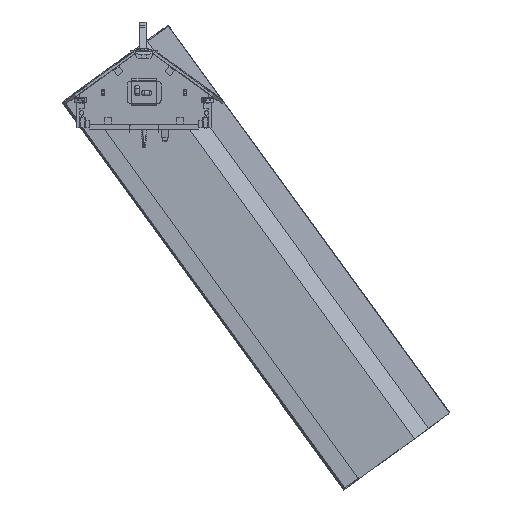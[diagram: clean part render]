
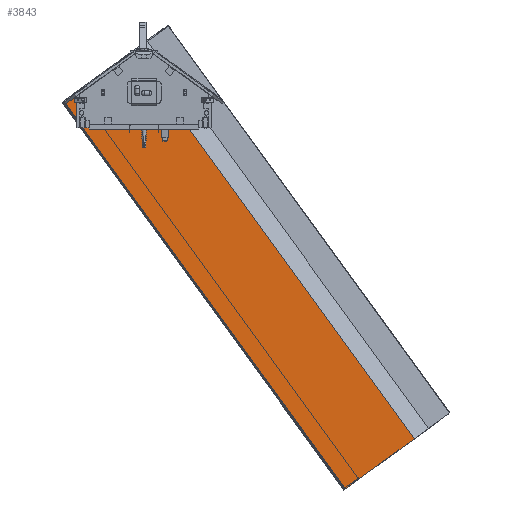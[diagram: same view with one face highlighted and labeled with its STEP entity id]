
A CAD part, left-side view. The second image highlights one B-rep face of the part: STEP entity #3843.
In plain terms, the highlighted planar face has unit normal (-1, 0, 0).
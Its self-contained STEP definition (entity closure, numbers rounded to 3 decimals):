
#3470=CARTESIAN_POINT('Vertex',(2945.11,-2792.848,-3529.747)) ;
#3473=CARTESIAN_POINT('Line Origine',(2945.11,-2436.88,-3788.373)) ;
#3477=CARTESIAN_POINT('Vertex',(2945.11,-2080.913,-4046.998)) ;
#3739=CARTESIAN_POINT('Axis2P3D Location',(2945.11,0.,0.)) ;
#3744=CARTESIAN_POINT('Line Origine',(2945.11,210.455,315.219)) ;
#3748=CARTESIAN_POINT('Vertex',(2945.11,143.815,315.219)) ;
#3750=CARTESIAN_POINT('Vertex',(2945.11,277.096,315.219)) ;
#3753=CARTESIAN_POINT('Line Origine',(2945.11,312.124,289.769)) ;
#3757=CARTESIAN_POINT('Vertex',(2945.11,347.152,264.32)) ;
#3760=CARTESIAN_POINT('Line Origine',(2945.11,355.969,276.455)) ;
#3764=CARTESIAN_POINT('Vertex',(2945.11,364.785,288.59)) ;
#3767=CARTESIAN_POINT('Line Origine',(2945.11,595.268,121.135)) ;
#3771=CARTESIAN_POINT('Vertex',(2945.11,825.75,-46.32)) ;
#3774=CARTESIAN_POINT('Line Origine',(2945.11,-627.581,-2046.659)) ;
#3779=CARTESIAN_POINT('Line Origine',(2945.11,-1405.632,-1620.408)) ;
#3783=CARTESIAN_POINT('Vertex',(2945.11,-18.416,288.931)) ;
#3786=CARTESIAN_POINT('Line Origine',(2945.11,62.7,288.931)) ;
#3790=CARTESIAN_POINT('Vertex',(2945.11,143.815,288.931)) ;
#3793=CARTESIAN_POINT('Line Origine',(2945.11,143.815,302.075)) ;
#3809=CARTESIAN_POINT('Line Origine',(2945.11,256.034,245.674)) ;
#3813=CARTESIAN_POINT('Vertex',(2945.11,200.025,258.671)) ;
#3815=CARTESIAN_POINT('Vertex',(2945.11,312.043,232.677)) ;
#3818=CARTESIAN_POINT('Line Origine',(2945.11,312.569,257.829)) ;
#3822=CARTESIAN_POINT('Vertex',(2945.11,313.095,282.981)) ;
#3825=CARTESIAN_POINT('Line Origine',(2945.11,257.086,295.978)) ;
#3829=CARTESIAN_POINT('Vertex',(2945.11,201.077,308.976)) ;
#3832=CARTESIAN_POINT('Line Origine',(2945.11,200.551,283.823)) ;
#3474=DIRECTION('Vector Direction',(0.,0.809,-0.588)) ;
#3740=DIRECTION('Axis2P3D Direction',(1.,0.,0.)) ;
#3741=DIRECTION('Axis2P3D XDirection',(0.,1.,0.)) ;
#3745=DIRECTION('Vector Direction',(0.,1.,0.)) ;
#3754=DIRECTION('Vector Direction',(0.,-0.809,0.588)) ;
#3761=DIRECTION('Vector Direction',(0.,-0.588,-0.809)) ;
#3768=DIRECTION('Vector Direction',(0.,0.809,-0.588)) ;
#3775=DIRECTION('Vector Direction',(0.,-0.588,-0.809)) ;
#3780=DIRECTION('Vector Direction',(0.,-0.588,-0.809)) ;
#3787=DIRECTION('Vector Direction',(0.,-1.,0.)) ;
#3794=DIRECTION('Vector Direction',(0.,0.,1.)) ;
#3810=DIRECTION('Vector Direction',(0.,0.974,-0.226)) ;
#3819=DIRECTION('Vector Direction',(0.,-0.021,-1.)) ;
#3826=DIRECTION('Vector Direction',(0.,-0.974,0.226)) ;
#3833=DIRECTION('Vector Direction',(0.,0.021,1.)) ;
#3742=AXIS2_PLACEMENT_3D('Plane Axis2P3D',#3739,#3740,#3741) ;
#3799=ORIENTED_EDGE('',*,*,#3752,.T.) ;
#3800=ORIENTED_EDGE('',*,*,#3759,.F.) ;
#3801=ORIENTED_EDGE('',*,*,#3766,.F.) ;
#3802=ORIENTED_EDGE('',*,*,#3773,.F.) ;
#3803=ORIENTED_EDGE('',*,*,#3778,.T.) ;
#3804=ORIENTED_EDGE('',*,*,#3479,.T.) ;
#3805=ORIENTED_EDGE('',*,*,#3785,.F.) ;
#3806=ORIENTED_EDGE('',*,*,#3792,.F.) ;
#3807=ORIENTED_EDGE('',*,*,#3797,.T.) ;
#3838=ORIENTED_EDGE('',*,*,#3817,.T.) ;
#3839=ORIENTED_EDGE('',*,*,#3824,.F.) ;
#3840=ORIENTED_EDGE('',*,*,#3831,.T.) ;
#3841=ORIENTED_EDGE('',*,*,#3836,.F.) ;
#3842=FACE_BOUND('',#3837,.T.) ;
#3475=VECTOR('Line Direction',#3474,1.) ;
#3746=VECTOR('Line Direction',#3745,1.) ;
#3755=VECTOR('Line Direction',#3754,1.) ;
#3762=VECTOR('Line Direction',#3761,1.) ;
#3769=VECTOR('Line Direction',#3768,1.) ;
#3776=VECTOR('Line Direction',#3775,1.) ;
#3781=VECTOR('Line Direction',#3780,1.) ;
#3788=VECTOR('Line Direction',#3787,1.) ;
#3795=VECTOR('Line Direction',#3794,1.) ;
#3811=VECTOR('Line Direction',#3810,1.) ;
#3820=VECTOR('Line Direction',#3819,1.) ;
#3827=VECTOR('Line Direction',#3826,1.) ;
#3834=VECTOR('Line Direction',#3833,1.) ;
#3843=ADVANCED_FACE('PartBody',(#3808,#3842),#3743,.F.) ;
#3479=EDGE_CURVE('',#3478,#3471,#3476,.F.) ;
#3752=EDGE_CURVE('',#3749,#3751,#3747,.T.) ;
#3759=EDGE_CURVE('',#3758,#3751,#3756,.T.) ;
#3766=EDGE_CURVE('',#3765,#3758,#3763,.T.) ;
#3773=EDGE_CURVE('',#3772,#3765,#3770,.F.) ;
#3778=EDGE_CURVE('',#3772,#3478,#3777,.T.) ;
#3785=EDGE_CURVE('',#3784,#3471,#3782,.T.) ;
#3792=EDGE_CURVE('',#3791,#3784,#3789,.T.) ;
#3797=EDGE_CURVE('',#3791,#3749,#3796,.T.) ;
#3817=EDGE_CURVE('',#3814,#3816,#3812,.T.) ;
#3824=EDGE_CURVE('',#3823,#3816,#3821,.T.) ;
#3831=EDGE_CURVE('',#3823,#3830,#3828,.T.) ;
#3836=EDGE_CURVE('',#3814,#3830,#3835,.T.) ;
#3798=EDGE_LOOP('',(#3799,#3800,#3801,#3802,#3803,#3804,#3805,#3806,#3807)) ;
#3837=EDGE_LOOP('',(#3838,#3839,#3840,#3841)) ;
#3808=FACE_OUTER_BOUND('',#3798,.T.) ;
#3476=LINE('Line',#3473,#3475) ;
#3747=LINE('Line',#3744,#3746) ;
#3756=LINE('Line',#3753,#3755) ;
#3763=LINE('Line',#3760,#3762) ;
#3770=LINE('Line',#3767,#3769) ;
#3777=LINE('Line',#3774,#3776) ;
#3782=LINE('Line',#3779,#3781) ;
#3789=LINE('Line',#3786,#3788) ;
#3796=LINE('Line',#3793,#3795) ;
#3812=LINE('Line',#3809,#3811) ;
#3821=LINE('Line',#3818,#3820) ;
#3828=LINE('Line',#3825,#3827) ;
#3835=LINE('Line',#3832,#3834) ;
#3743=PLANE('',#3742) ;
#3471=VERTEX_POINT('',#3470) ;
#3478=VERTEX_POINT('',#3477) ;
#3749=VERTEX_POINT('',#3748) ;
#3751=VERTEX_POINT('',#3750) ;
#3758=VERTEX_POINT('',#3757) ;
#3765=VERTEX_POINT('',#3764) ;
#3772=VERTEX_POINT('',#3771) ;
#3784=VERTEX_POINT('',#3783) ;
#3791=VERTEX_POINT('',#3790) ;
#3814=VERTEX_POINT('',#3813) ;
#3816=VERTEX_POINT('',#3815) ;
#3823=VERTEX_POINT('',#3822) ;
#3830=VERTEX_POINT('',#3829) ;
